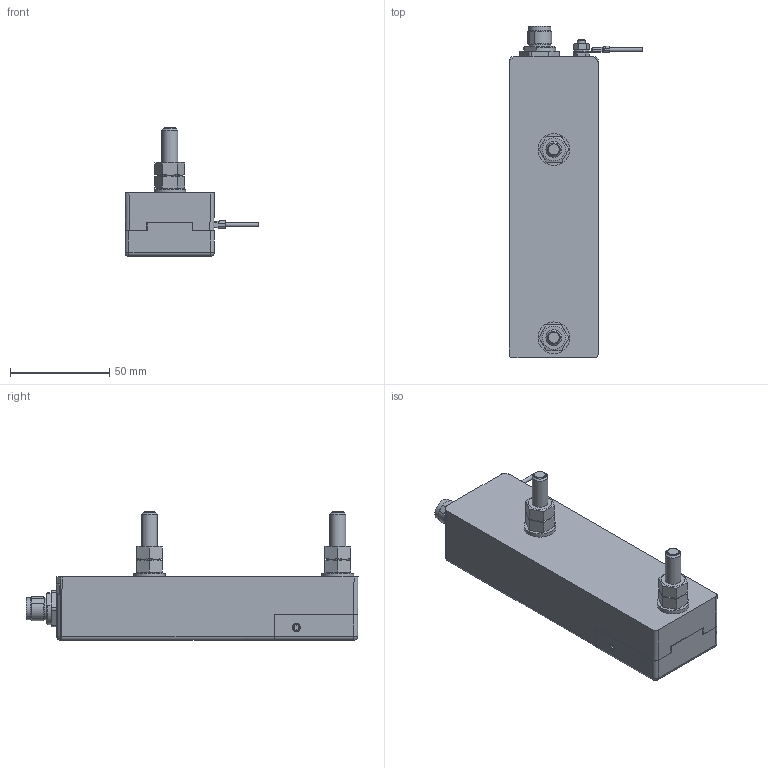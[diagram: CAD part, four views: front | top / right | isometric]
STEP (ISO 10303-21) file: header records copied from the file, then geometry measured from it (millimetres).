
FILE_DESCRIPTION(('ONLY FOR INFORMATION','HiCAD-Model','HiCAD-STEP-TRANSLATION'),'2;1');
FILE_NAME('Q:/##','2010-00-00',('D&E Department'),('Simco (Nederland) B.V.','Aalsvoort 74','NL-7241 MB LOCHEM','www.simco.nl'),' HiCAD 2010, Step 1502.3 ','HiCAD 2010','confidential');
FILE_SCHEMA(('AUTOMOTIVE_DESIGN { 1 2 10303 214 0 1 1 1 }'));
Length unit declared in the file: millimetre
Products named in the file (57): PERFOMASTER_2011_04_11; SIMCO_PERFOMASTER_2011_04_11; SIMCO0PERFOMASTER02011004011; GEWINDE; GEWINDE0; PG 9; ISO 4032_M8_10_HEXAGON NUTS_0; ISO040320M80100HEXAGON0NUTS00; GEWINDE1; ISO040320M80100HEXAGON0NUTS000; ISO040320M80100HEXAGON0NUTS001; GEWINDE2; DIN 1441_9_ST_WASHERS FOR STUD; DIN01441090ST0WASHERS0FOR0STUD; ISO 4032_M4_10_HEXAGON NUTS_0; ISO040320M40100HEXAGON0NUTS00; GEWINDE3; DIN 128_A 4_FST_WASHERS_0; ISO 4035_M4_04_HEXAGON NUTS_0; ISO040350M40040HEXAGON0NUTS00; GEWINDE4; LED; LED0; M8_CHEESE_HEAD SCREW_0; M80CHEESE0HEAD0SCREW00; GEWINDE5; M8_SET SCREWS_0; M80SET0SCREWS00; GEWINDE6; HEAD PM 3P; HEAD0PM03P; NR_ 8_32 UNC_2B; NR0080320UNC02B; NR0080320UNC02B0; NR0080320UNC02B1; PIN 8 MM PM 09304320; SCREW BZK NR_ 8_32_SET SCREWS ; SCREW0BZK0NR0080320SET0SCREWS0; GEWINDE7; PIN080MM0PM009304320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
Assembly tree (56 placements, depth 5):
  PERFOMASTER_2011_04_11
    SIMCO_PERFOMASTER_2011_04_11
    SIMCO0PERFOMASTER02011004011
      GEWINDE
      GEWINDE0
      PG 9
      ISO 4032_M8_10_HEXAGON NUTS_0
      ISO040320M80100HEXAGON0NUTS00
        GEWINDE1
      ISO040320M80100HEXAGON0NUTS000
      ISO040320M80100HEXAGON0NUTS001
        GEWINDE2
      DIN 1441_9_ST_WASHERS FOR STUD
      DIN01441090ST0WASHERS0FOR0STUD
      ISO 4032_M4_10_HEXAGON NUTS_0
      ISO040320M40100HEXAGON0NUTS00
        GEWINDE3
      DIN 128_A 4_FST_WASHERS_0
      ISO 4035_M4_04_HEXAGON NUTS_0
      ISO040350M40040HEXAGON0NUTS00
        GEWINDE4
      LED
      LED0
      M8_CHEESE_HEAD SCREW_0
      M80CHEESE0HEAD0SCREW00
        GEWINDE5
      M8_SET SCREWS_0
      M80SET0SCREWS00
        GEWINDE6
      HEAD PM 3P
      HEAD0PM03P
        NR_ 8_32 UNC_2B
        NR0080320UNC02B
        NR0080320UNC02B0
        NR0080320UNC02B1
        PIN 8 MM PM 09304320
        SCREW BZK NR_ 8_32_SET SCREWS 
        SCREW0BZK0NR0080320SET0SCREWS0
          GEWINDE7
        PIN080MM0PM009304320
        PIN080MM0PM0093043200
        SCREW0BZK0NR0080320SET0SCREWS00
        SCREW0BZK0NR0080320SET0SCREWS01
          GEWINDE8
        SCREW0BZK0NR0080320SET0SCREWS00
        SCREW0BZK0NR0080320SET0SCREWS01
          GEWINDE9
        SCREW0BZK0NR0080320SET0SCREWS00
        SCREW0BZK0NR0080320SET0SCREWS01
          GEWINDE10
      EXTERNAL_EARTH_WIRE
      ISO040320M80100HEXAGON0NUTS002
      ISO040320M80100HEXAGON0NUTS003
        GEWINDE11
      ISO040320M80100HEXAGON0NUTS004
      ISO040320M80100HEXAGON0NUTS005
        GEWINDE12
Bounding box: 67.58 x 167.5 x 65 mm (x, y, z)
Volume: 224781.1 mm3; surface area: 45798.6 mm2
Topology: 42 solids, 42 shells, 511 faces, 1217 edges, 799 vertices
Faces by surface type: plane 278, cylinder 159, cone 53, bspline 12, torus 7, sphere 2
Full cylindrical faces by diameter (mm): 1 x5, 1.45 x3, 1.6 x3, 2 x1, 2.5 x3, 3 x3, 3.141 x13, 3.17 x4, 4 x10, 4.143 x8, 4.5 x1, 5.8 x6, 6.466 x8, 8 x10, 9 x5, 11 x2, 13.86 x1, 15.2 x1, 16 x2
Entity records: 35975 total; most frequent: CARTESIAN_POINT 18351, DIRECTION 2417, ORIENTED_EDGE 1962, COLOUR_RGB 1059, PRESENTATION_STYLE_ASSIGNMENT 1059, OVER_RIDING_STYLED_ITEM 1017, EDGE_CURVE 981, AXIS2_PLACEMENT_3D 970
